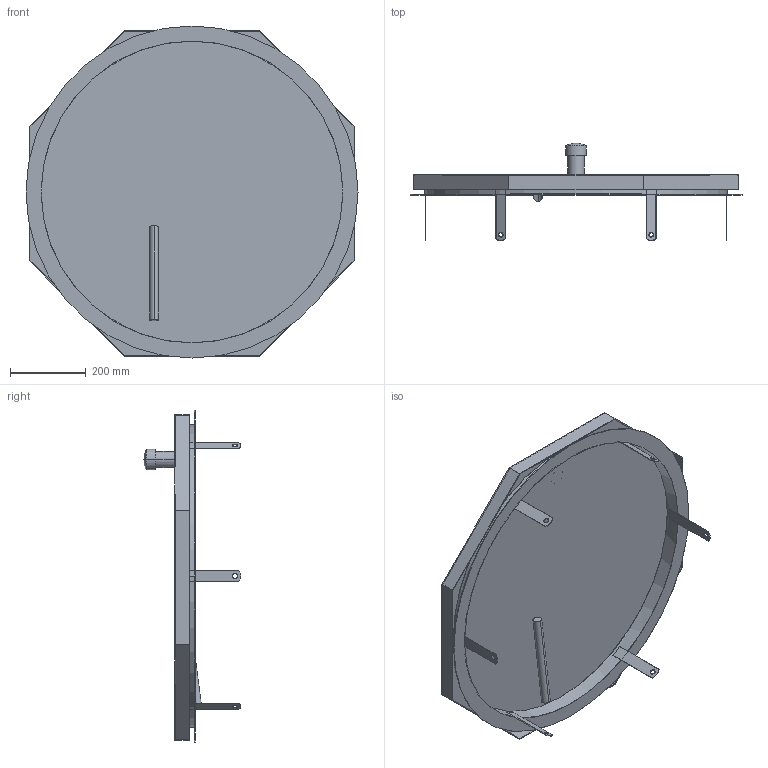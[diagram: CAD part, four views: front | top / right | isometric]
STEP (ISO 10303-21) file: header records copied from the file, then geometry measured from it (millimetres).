
FILE_DESCRIPTION((''),'2;1');
FILE_NAME('017_000107','2017-06-12T',('set'),('HUBER SE'),'PRO/ENGINEER BY PARAMETRIC TECHNOLOGY CORPORATION, 2015280','PRO/ENGINEER BY PARAMETRIC TECHNOLOGY CORPORATION, 2015280','');
FILE_SCHEMA(('CONFIG_CONTROL_DESIGN'));
Length unit declared in the file: millimetre
Products named in the file (1): 017_000107
Bounding box: 875 x 256 x 875 mm (x, y, z)
Volume: 2123025.5 mm3; surface area: 1923444.7 mm2
Topology: 3 solids, 3 shells, 87 faces, 355 edges, 297 vertices
Faces by surface type: plane 55, cylinder 30, sphere 2
Entity records: 3546 total; most frequent: CARTESIAN_POINT 742, DIRECTION 570, ORIENTED_EDGE 460, VECTOR 230, LINE 230, EDGE_CURVE 230, AXIS2_PLACEMENT_3D 170, VERTEX_POINT 153
